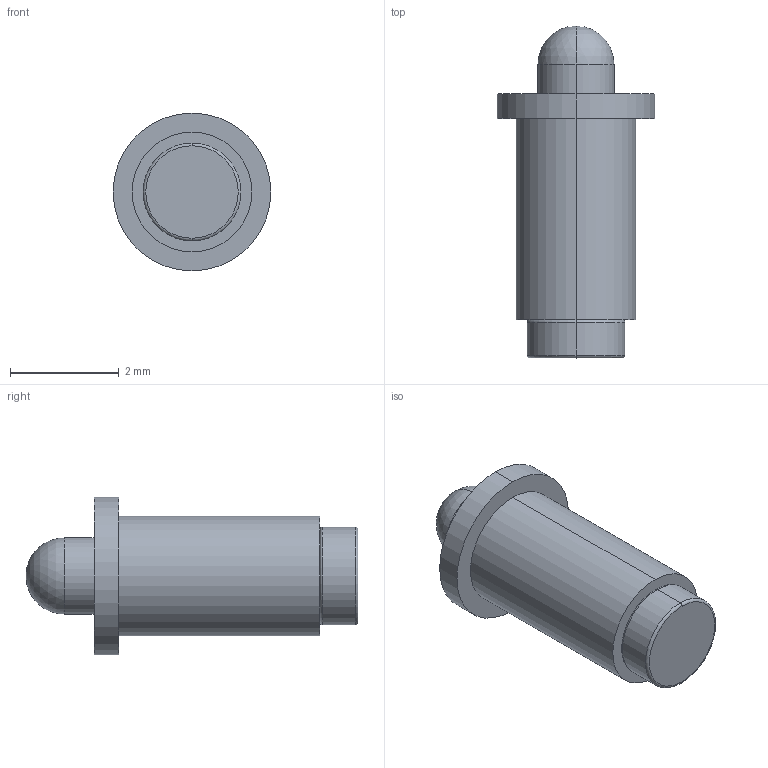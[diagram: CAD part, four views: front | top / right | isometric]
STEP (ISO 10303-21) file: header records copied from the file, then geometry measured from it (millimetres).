
FILE_DESCRIPTION((''),'2;1');
FILE_NAME('PRT0018','2023-05-26T16:15:58',('USER'),(''),'CREO PARAMETRIC BY PTC INC, 2020154','CREO PARAMETRIC BY PTC INC, 2020154','');
FILE_SCHEMA(('CONFIG_CONTROL_DESIGN'));
Length unit declared in the file: millimetre
Products named in the file (1): PRT0018
Bounding box: 2.9 x 6.1 x 2.9 mm (x, y, z)
Volume: 20.4 mm3; surface area: 51.1 mm2
Topology: 1 solids, 1 shells, 18 faces, 36 edges, 21 vertices
Faces by surface type: cylinder 8, plane 4, torus 4, sphere 2
Entity records: 502 total; most frequent: DIRECTION 96, CARTESIAN_POINT 73, ORIENTED_EDGE 68, AXIS2_PLACEMENT_3D 44, EDGE_CURVE 34, CIRCLE 26, VERTEX_POINT 21, EDGE_LOOP 21
